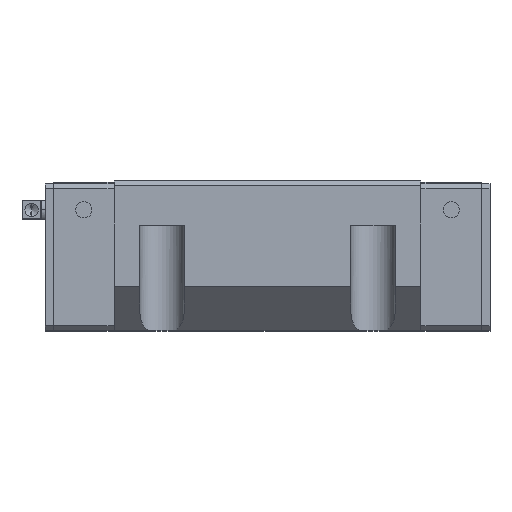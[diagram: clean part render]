
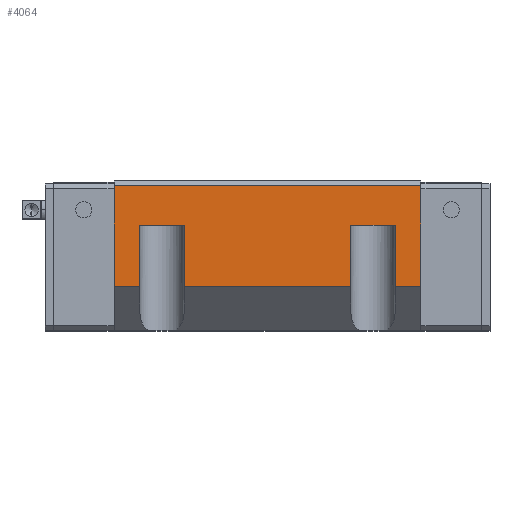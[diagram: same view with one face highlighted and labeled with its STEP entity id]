
A CAD part, top view. The second image highlights one B-rep face of the part: STEP entity #4064.
In plain terms, the highlighted planar face has unit normal (0, 0, 1).
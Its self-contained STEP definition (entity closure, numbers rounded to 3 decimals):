
#71 = CARTESIAN_POINT ( 'NONE',  ( -80., 34.5, 85. ) ) ;
#77 = EDGE_LOOP ( 'NONE', ( #8759, #7144, #4016, #5252, #265, #8786, #4951, #1715, #5059, #7981, #4817, #9027 ) ) ;
#127 = FACE_OUTER_BOUND ( 'NONE', #77, .T. ) ;
#239 = CARTESIAN_POINT ( 'NONE',  ( -66.5, 14., 85. ) ) ;
#265 = ORIENTED_EDGE ( 'NONE', *, *, #4423, .T. ) ;
#394 = VECTOR ( 'NONE', #7822, 1000. ) ;
#525 = VECTOR ( 'NONE', #9613, 1000. ) ;
#587 = LINE ( 'NONE', #4384, #7670 ) ;
#832 = DIRECTION ( 'NONE',  ( 0., 0., 1. ) ) ;
#960 = LINE ( 'NONE', #7014, #8004 ) ;
#990 = EDGE_CURVE ( 'NONE', #2684, #9237, #4023, .T. ) ;
#994 = CARTESIAN_POINT ( 'NONE',  ( 66.5, -18., 85. ) ) ;
#1009 = VERTEX_POINT ( 'NONE', #6327 ) ;
#1024 = CARTESIAN_POINT ( 'NONE',  ( -43.5, -18., 85. ) ) ;
#1272 = LINE ( 'NONE', #7324, #525 ) ;
#1364 = VECTOR ( 'NONE', #7495, 1000. ) ;
#1532 = EDGE_CURVE ( 'NONE', #9237, #5861, #2910, .T. ) ;
#1715 = ORIENTED_EDGE ( 'NONE', *, *, #4700, .F. ) ;
#1916 = VERTEX_POINT ( 'NONE', #5875 ) ;
#2060 = VERTEX_POINT ( 'NONE', #8393 ) ;
#2135 = VERTEX_POINT ( 'NONE', #994 ) ;
#2684 = VERTEX_POINT ( 'NONE', #3632 ) ;
#2716 = VECTOR ( 'NONE', #7185, 1000. ) ;
#2855 = DIRECTION ( 'NONE',  ( 0., 1., 0. ) ) ;
#2899 = DIRECTION ( 'NONE',  ( 1., 0., 0. ) ) ;
#2910 = LINE ( 'NONE', #8156, #9352 ) ;
#2973 = EDGE_CURVE ( 'NONE', #2684, #7491, #3967, .T. ) ;
#3209 = CARTESIAN_POINT ( 'NONE',  ( 43.5, 14., 85. ) ) ;
#3215 = DIRECTION ( 'NONE',  ( 0., 1., 0. ) ) ;
#3351 = VECTOR ( 'NONE', #4011, 1000. ) ;
#3605 = EDGE_CURVE ( 'NONE', #1009, #6619, #3744, .T. ) ;
#3632 = CARTESIAN_POINT ( 'NONE',  ( -43.5, -18., 85. ) ) ;
#3742 = CARTESIAN_POINT ( 'NONE',  ( 80., 34.5, 85. ) ) ;
#3744 = LINE ( 'NONE', #5143, #1364 ) ;
#3951 = CARTESIAN_POINT ( 'NONE',  ( -66.5, 14., 85. ) ) ;
#3967 = LINE ( 'NONE', #5468, #9161 ) ;
#4011 = DIRECTION ( 'NONE',  ( 0., -1., 0. ) ) ;
#4016 = ORIENTED_EDGE ( 'NONE', *, *, #990, .T. ) ;
#4023 = LINE ( 'NONE', #1024, #394 ) ;
#4064 = ADVANCED_FACE ( 'NONE', ( #127 ), #8372, .T. ) ;
#4116 = DIRECTION ( 'NONE',  ( 0., 1., 0. ) ) ;
#4384 = CARTESIAN_POINT ( 'NONE',  ( -66.5, -18., 85. ) ) ;
#4423 = EDGE_CURVE ( 'NONE', #5861, #1916, #7719, .T. ) ;
#4484 = EDGE_CURVE ( 'NONE', #1009, #2060, #4668, .T. ) ;
#4517 = DIRECTION ( 'NONE',  ( 1., 0., 0. ) ) ;
#4668 = LINE ( 'NONE', #71, #7808 ) ;
#4700 = EDGE_CURVE ( 'NONE', #6619, #6475, #5508, .T. ) ;
#4817 = ORIENTED_EDGE ( 'NONE', *, *, #7684, .T. ) ;
#4951 = ORIENTED_EDGE ( 'NONE', *, *, #8506, .T. ) ;
#5059 = ORIENTED_EDGE ( 'NONE', *, *, #3605, .F. ) ;
#5143 = CARTESIAN_POINT ( 'NONE',  ( -80., 34.5, 85. ) ) ;
#5146 = EDGE_CURVE ( 'NONE', #5345, #6377, #587, .T. ) ;
#5252 = ORIENTED_EDGE ( 'NONE', *, *, #1532, .T. ) ;
#5345 = VERTEX_POINT ( 'NONE', #6230 ) ;
#5404 = AXIS2_PLACEMENT_3D ( 'NONE', #6130, #832, #6228 ) ;
#5468 = CARTESIAN_POINT ( 'NONE',  ( -43.5, -18., 85. ) ) ;
#5508 = LINE ( 'NONE', #8559, #3351 ) ;
#5744 = EDGE_CURVE ( 'NONE', #2135, #1916, #960, .T. ) ;
#5861 = VERTEX_POINT ( 'NONE', #3209 ) ;
#5875 = CARTESIAN_POINT ( 'NONE',  ( 66.5, 14., 85. ) ) ;
#5876 = DIRECTION ( 'NONE',  ( 0., 1., 0. ) ) ;
#6130 = CARTESIAN_POINT ( 'NONE',  ( -80., 34.5, 85. ) ) ;
#6169 = CARTESIAN_POINT ( 'NONE',  ( 43.5, 14., 85. ) ) ;
#6228 = DIRECTION ( 'NONE',  ( 0., -1., 0. ) ) ;
#6230 = CARTESIAN_POINT ( 'NONE',  ( -66.5, -18., 85. ) ) ;
#6242 = LINE ( 'NONE', #239, #2716 ) ;
#6327 = CARTESIAN_POINT ( 'NONE',  ( -80., 34.5, 85. ) ) ;
#6377 = VERTEX_POINT ( 'NONE', #3951 ) ;
#6475 = VERTEX_POINT ( 'NONE', #7300 ) ;
#6619 = VERTEX_POINT ( 'NONE', #3742 ) ;
#7014 = CARTESIAN_POINT ( 'NONE',  ( 66.5, -18., 85. ) ) ;
#7144 = ORIENTED_EDGE ( 'NONE', *, *, #2973, .F. ) ;
#7185 = DIRECTION ( 'NONE',  ( 1., 0., 0. ) ) ;
#7300 = CARTESIAN_POINT ( 'NONE',  ( 80., -18., 85. ) ) ;
#7324 = CARTESIAN_POINT ( 'NONE',  ( 66.5, -18., 85. ) ) ;
#7390 = CARTESIAN_POINT ( 'NONE',  ( 43.5, -18., 85. ) ) ;
#7491 = VERTEX_POINT ( 'NONE', #9345 ) ;
#7495 = DIRECTION ( 'NONE',  ( 1., 0., 0. ) ) ;
#7519 = VECTOR ( 'NONE', #2899, 1000. ) ;
#7670 = VECTOR ( 'NONE', #5876, 1000. ) ;
#7684 = EDGE_CURVE ( 'NONE', #2060, #5345, #8988, .T. ) ;
#7719 = LINE ( 'NONE', #6169, #9706 ) ;
#7808 = VECTOR ( 'NONE', #9812, 1000. ) ;
#7822 = DIRECTION ( 'NONE',  ( 1., 0., 0. ) ) ;
#7981 = ORIENTED_EDGE ( 'NONE', *, *, #4484, .T. ) ;
#8004 = VECTOR ( 'NONE', #3215, 1000. ) ;
#8012 = EDGE_CURVE ( 'NONE', #6377, #7491, #6242, .T. ) ;
#8156 = CARTESIAN_POINT ( 'NONE',  ( 43.5, -18., 85. ) ) ;
#8372 = PLANE ( 'NONE',  #5404 ) ;
#8393 = CARTESIAN_POINT ( 'NONE',  ( -80., -18., 85. ) ) ;
#8506 = EDGE_CURVE ( 'NONE', #2135, #6475, #1272, .T. ) ;
#8559 = CARTESIAN_POINT ( 'NONE',  ( 80., 34.5, 85. ) ) ;
#8759 = ORIENTED_EDGE ( 'NONE', *, *, #8012, .T. ) ;
#8786 = ORIENTED_EDGE ( 'NONE', *, *, #5744, .F. ) ;
#8988 = LINE ( 'NONE', #9685, #7519 ) ;
#9027 = ORIENTED_EDGE ( 'NONE', *, *, #5146, .T. ) ;
#9161 = VECTOR ( 'NONE', #4116, 1000. ) ;
#9237 = VERTEX_POINT ( 'NONE', #7390 ) ;
#9345 = CARTESIAN_POINT ( 'NONE',  ( -43.5, 14., 85. ) ) ;
#9352 = VECTOR ( 'NONE', #2855, 1000. ) ;
#9613 = DIRECTION ( 'NONE',  ( 1., 0., 0. ) ) ;
#9685 = CARTESIAN_POINT ( 'NONE',  ( -80., -18., 85. ) ) ;
#9706 = VECTOR ( 'NONE', #4517, 1000. ) ;
#9812 = DIRECTION ( 'NONE',  ( 0., -1., 0. ) ) ;
